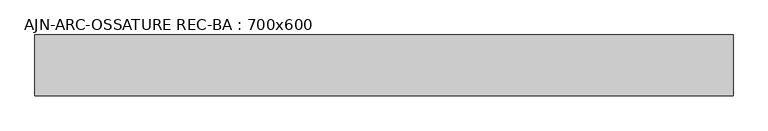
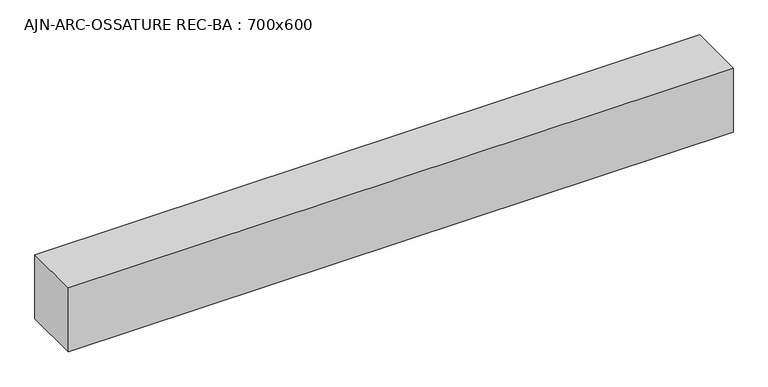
"""IFC4 building model written with IfcOpenShell, lengths in millimetres: beam geometry, AJN-ARC-OSSATURE REC-BA : 700x600."""

from ifc_helpers import new_model, si_unit, frame, origin, place, context, project, spatial, polyline, outline, extrude, source, transform, mapped, element, save


def ajn_arc_ossature_rec_ba_700x600_81622abb(model_context):
    return source(origin(), model_context, "Body", "SweptSolid", [
        extrude(outline(polyline([(3287.3, 300.0), (3287.3, -300.0), (-3587.2999994, -300.0), (-3587.2999994, 300.0), (3287.3, 300.0)])), frame((0.0, 0.0, -350.0), z_axis=(0.0, 0.0, 1.0), x_axis=(1.0, 0.0, 0.0)), (0.0, 0.0, 1.0), 700.0),
    ])


if __name__ == "__main__":
    model = new_model("IFC4")
    model_context = context("Model", 3, world=origin())
    ifc_project = project(units=[si_unit("LENGTHUNIT", "METRE", prefix="MILLI")], contexts=[model_context])
    site = spatial("IfcSite", under=ifc_project)
    building = spatial("IfcBuilding", under=site)
    placement = place(None, origin())
    ajn_arc_ossature_rec_ba_700x600_shape = ajn_arc_ossature_rec_ba_700x600_81622abb(model_context)
    element("IfcBeam", 1, ObjectType="AJN-ARC-OSSATURE REC-BA : 700x600", at=placement, inside=building, context=model_context, shape_type="MappedRepresentation", body=[
        mapped(ajn_arc_ossature_rec_ba_700x600_shape, transform((0.0, 0.0, 0.0), x_axis=(1.0, 0.0, 0.0), y_axis=(0.0, 1.0, 0.0), z_axis=(0.0, 0.0, 1.0))),
    ])
    save(model, "model.ifc")
